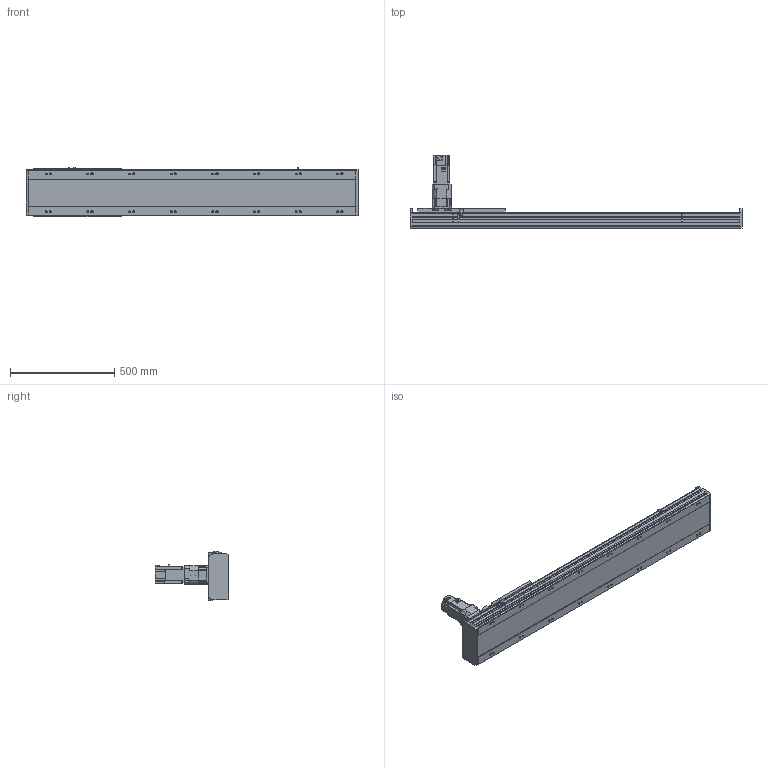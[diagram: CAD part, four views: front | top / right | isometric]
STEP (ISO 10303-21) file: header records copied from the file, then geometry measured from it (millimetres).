
FILE_DESCRIPTION(/* description */ ('STEP AP214'),/* implementation_level */ '2;1');
FILE_NAME(/* name */ 'SHS22A-L13-S1100-BC-T75-C1-N(0)',/* time_stamp */ '2022-06-15T02:26:10+02:00',/* author */ ('License CC BY-ND 4.0'),/* organization */ ('CADENAS'),/* preprocessor_version */ 'ST-DEVELOPER v18.102',/* originating_system */ 'PARTsolutions',/* authorisation */ ' ');
FILE_SCHEMA (('AUTOMOTIVE_DESIGN {1 0 10303 214 3 1 1}'));
Length unit declared in the file: millimetre
Products named in the file (7): SHS22A-L13-S1100-BC-T75-C1-N(0); PSC140-sensor; SHS22A-S1100_body2; T75-p1; SHS22A-S1100_body3; SHS22A-S1100_slider; SHS22A-L13-S1100-BC-T75-C1(0)_body
Assembly tree (13 placements, depth 2):
  SHS22A-L13-S1100-BC-T75-C1-N(0)
    PSC140-sensor  x3
    SHS22A-S1100_body2  x6
    T75-p1
    SHS22A-S1100_body3
    SHS22A-S1100_slider
    SHS22A-L13-S1100-BC-T75-C1(0)_body
Bounding box: 1594 x 350.8 x 238.4 mm (x, y, z)
Volume: 19382899.4 mm3; surface area: 2082225.4 mm2
Topology: 13 solids, 13 shells, 1797 faces, 4639 edges, 3040 vertices
Faces by surface type: plane 1312, cylinder 395, cone 81, torus 9
Full cylindrical faces by diameter (mm): 2.8 x3, 4.2 x2, 4.6 x3, 4.917 x4, 5 x4, 5.6 x24, 6 x31, 6.6 x24, 6.647 x8, 6.8 x9, 7.75 x6, 8 x3, 8.376 x16, 8.5 x16, 10 x4, 11 x4, 12 x24, 14 x16, 22 x1, 24.1 x1, 28 x1, 28.2 x1, 28.8 x1, 48.542 x1, 68 x1, 70 x1, 78 x1, 80 x2
Entity records: 29099 total; most frequent: CARTESIAN_POINT 5141, DIRECTION 4919, ORIENTED_EDGE 4548, EDGE_CURVE 2274, AXIS2_PLACEMENT_3D 1680, VERTEX_POINT 1614, LINE 1559, VECTOR 1559
